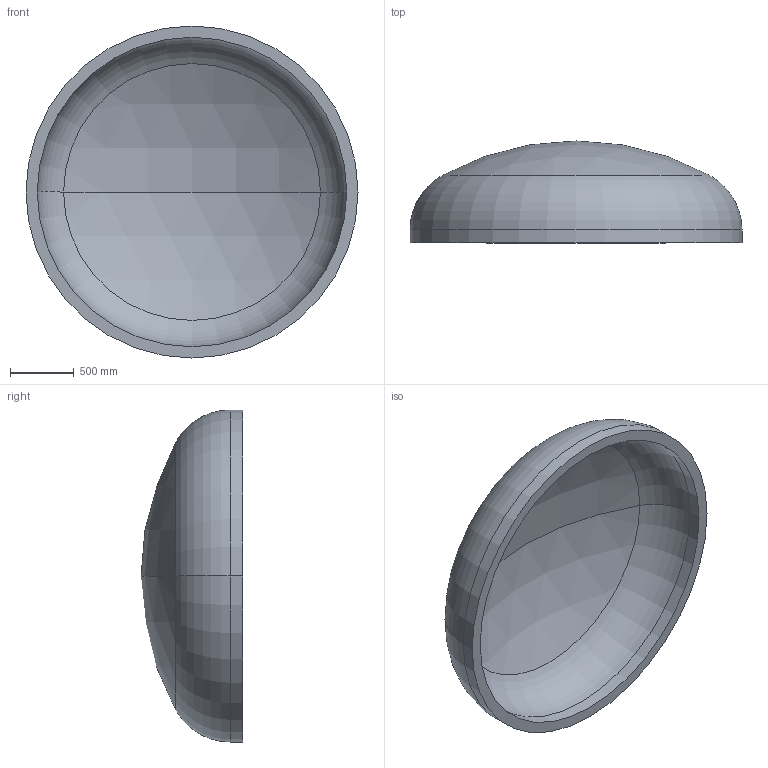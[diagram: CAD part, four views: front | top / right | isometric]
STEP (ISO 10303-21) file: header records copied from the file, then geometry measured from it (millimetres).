
FILE_DESCRIPTION (( 'STEP AP203' ), '1' );
FILE_NAME ('DIN 28013 Korbbogenform_-_Boden DIN 28013 - 2600 x 100 - I - s=88.step', '2016-07-01T16:27:55', ( '' ), ( '' ), 'SwSTEP 2.0', 'SolidWorks 2013', '' );
FILE_SCHEMA (( 'CONFIG_CONTROL_DESIGN' ));
Length unit declared in the file: millimetre
Products named in the file (1): DIN 28013 Korbbogenform_-_Boden DIN 28013 - 2600 x 100 - I - s=88
Bounding box: 2600 x 797.27 x 2600 mm (x, y, z)
Volume: 688508985.5 mm3; surface area: 16358613.5 mm2
Topology: 1 solids, 1 shells, 13 faces, 24 edges, 14 vertices
Faces by surface type: torus 4, cylinder 4, sphere 4, plane 1
Entity records: 407 total; most frequent: DIRECTION 72, CARTESIAN_POINT 52, ORIENTED_EDGE 48, AXIS2_PLACEMENT_3D 34, EDGE_CURVE 24, CIRCLE 20, VERTEX_POINT 14, EDGE_LOOP 14
